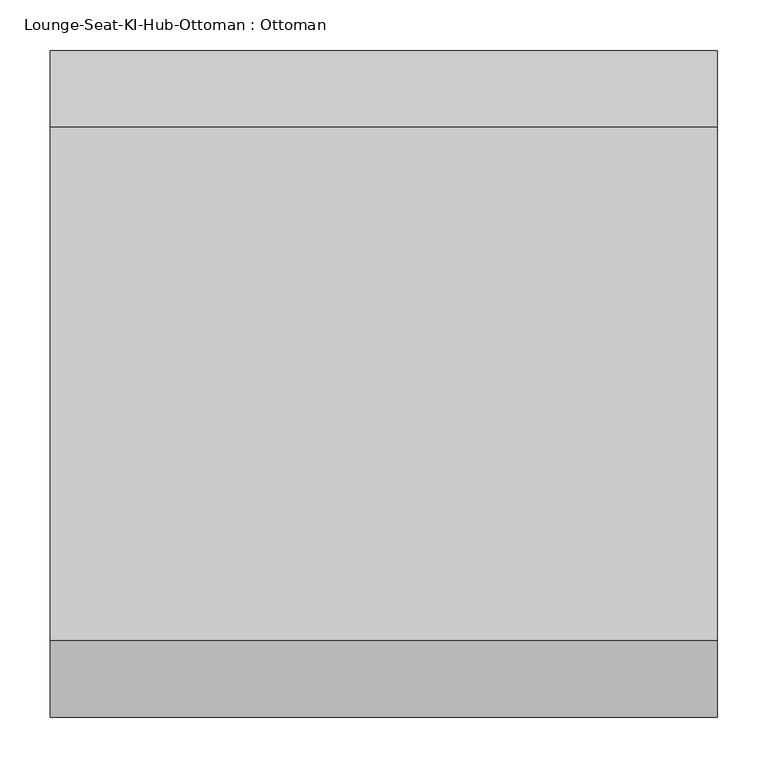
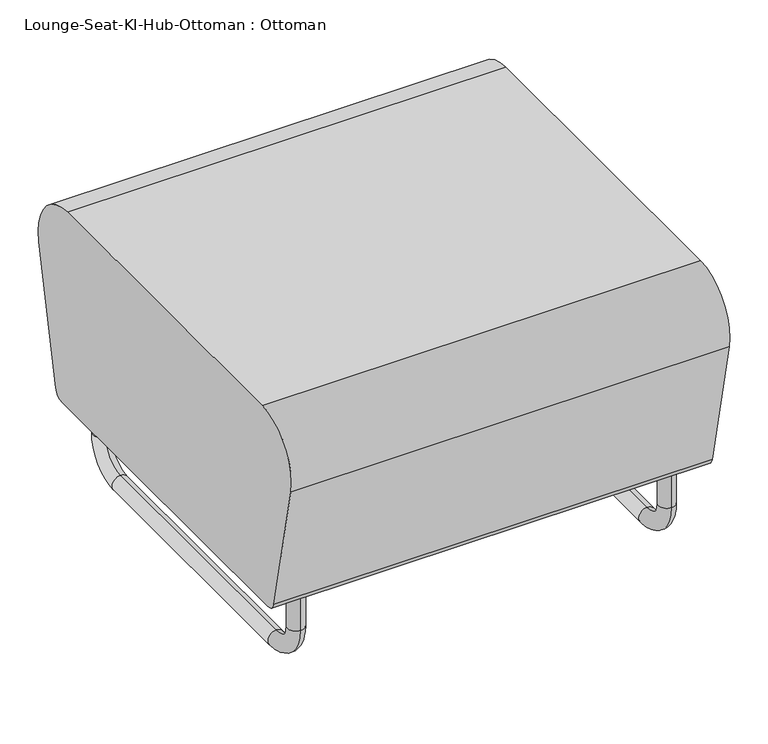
"""IFC4 building model written with IfcOpenShell, lengths in millimetres: furniture geometry, Lounge-Seat-KI-Hub-Ottoman : Ottoman."""

from ifc_helpers import new_model, si_unit, point, frame, origin, place, context, project, spatial, circle_curve, ellipse_curve, trimmed, source, transform, mapped, element, save
from ifc_brep_helpers import plane_surface, cylinder_surface, revolved_surface, advanced_brep


def lounge_seat_ki_hub_ottoman_ottoman_fce9da11(model_context):
    return source(origin(), model_context, "Body", "AdvancedBrep", [
        advanced_brep(
        [(279.4, -266.7, 120.65), (279.4, -241.3, 120.65), (279.4, -266.7, 63.5), (279.4, -241.3, 63.5), (279.4, -203.2, 25.4), (279.4, -203.2, 0.0), (279.4, 203.2, 0.0), (279.4, 203.2, 25.4), (279.4, 241.3, 63.5), (279.4, 266.7, 63.5), (279.4, 266.7, 120.65), (279.4, 241.3, 120.65)],
        [
            (0, 1, circle_curve(frame((279.4, -254.0, 120.65), z_axis=(0.0, 0.0, 1.0), x_axis=(0.0, 1.0, 0.0)), 12.7)),
            (1, 0, circle_curve(frame((279.4, -254.0, 120.65), z_axis=(0.0, 0.0, 1.0), x_axis=(0.0, 1.0, 0.0)), 12.7)),
            (0, 2),
            (2, 3, circle_curve(frame((279.4, -254.0, 63.5), z_axis=(0.0, 0.0, 1.0), x_axis=(0.0, 1.0, 0.0)), 12.7)),
            (3, 1),
            (3, 2, circle_curve(frame((279.4, -254.0, 63.5), z_axis=(0.0, 0.0, 1.0), x_axis=(0.0, 1.0, 0.0)), 12.7)),
            (4, 3, circle_curve(frame((279.4, -203.2, 63.5), z_axis=(-1.0, 0.0, 0.0), x_axis=(0.0, -1.0, 0.0)), 38.1)),
            (2, 5, circle_curve(frame((279.4, -203.2, 63.5), z_axis=(1.0, 0.0, 0.0), x_axis=(0.0, -1.0, 0.0)), 63.5)),
            (5, 4, circle_curve(frame((279.4, -203.2, 12.7), z_axis=(0.0, -1.0, 0.0), x_axis=(0.0, 0.0, 1.0)), 12.7)),
            (4, 5, circle_curve(frame((279.4, -203.2, 12.7), z_axis=(0.0, -1.0, 0.0), x_axis=(0.0, 0.0, 1.0)), 12.7)),
            (5, 6),
            (6, 7, circle_curve(frame((279.4, 203.2, 12.7), z_axis=(0.0, -1.0, 0.0), x_axis=(0.0, 0.0, 1.0)), 12.7)),
            (7, 4),
            (7, 6, circle_curve(frame((279.4, 203.2, 12.7), z_axis=(0.0, -1.0, 0.0), x_axis=(0.0, 0.0, 1.0)), 12.7)),
            (8, 7, circle_curve(frame((279.4, 203.2, 63.5), z_axis=(-1.0, 0.0, 0.0), x_axis=(0.0, 0.0, -1.0)), 38.1)),
            (6, 9, circle_curve(frame((279.4, 203.2, 63.5), z_axis=(1.0, 0.0, 0.0), x_axis=(0.0, 0.0, -1.0)), 63.5)),
            (9, 8, circle_curve(frame((279.4, 254.0, 63.5), z_axis=(0.0, 0.0, -1.0), x_axis=(0.0, -1.0, 0.0)), 12.7)),
            (8, 9, circle_curve(frame((279.4, 254.0, 63.5), z_axis=(0.0, 0.0, -1.0), x_axis=(0.0, -1.0, 0.0)), 12.7)),
            (10, 11, circle_curve(frame((279.4, 254.0, 120.65), z_axis=(0.0, 0.0, 1.0), x_axis=(0.0, -1.0, 0.0)), 12.7)),
            (11, 10, circle_curve(frame((279.4, 254.0, 120.65), z_axis=(0.0, 0.0, 1.0), x_axis=(0.0, -1.0, 0.0)), 12.7)),
            (9, 10),
            (11, 8),
        ],
        [
            plane_surface(frame((279.4, -254.0, 120.65), z_axis=(0.0, 0.0, 1.0), x_axis=(1.0, 0.0, 0.0))),
            cylinder_surface(frame((279.4, -254.0, 120.65), z_axis=(0.0, 0.0, 1.0), x_axis=(0.0, 1.0, 0.0)), 12.7),
            revolved_surface(trimmed(ellipse_curve(frame((279.4, -254.0, 63.5), z_axis=(0.0, 0.0, 1.0), x_axis=(0.0, 1.0, 0.0)), 12.7, 12.7), [point((279.4, -266.7, 63.5))], [point((279.4, -241.3, 63.5))], True, "CARTESIAN"), (279.4, -203.2, 63.5), (1.0, 0.0, 0.0)),
            revolved_surface(trimmed(ellipse_curve(frame((279.4, -254.0, 63.5), z_axis=(0.0, 0.0, 1.0), x_axis=(0.0, 1.0, 0.0)), 12.7, 12.7), [point((279.4, -241.3, 63.5))], [point((279.4, -266.7, 63.5))], True, "CARTESIAN"), (279.4, -203.2, 63.5), (1.0, 0.0, 0.0)),
            cylinder_surface(frame((279.4, -203.2, 12.7), z_axis=(0.0, -1.0, 0.0), x_axis=(0.0, 0.0, 1.0)), 12.7),
            revolved_surface(trimmed(ellipse_curve(frame((279.4, 203.2, 12.7), z_axis=(0.0, -1.0, 0.0), x_axis=(0.0, 0.0, 1.0)), 12.7, 12.7), [point((279.4, 203.2, 0.0))], [point((279.4, 203.2, 25.4))], True, "CARTESIAN"), (279.4, 203.2, 63.5), (1.0, 0.0, 0.0)),
            revolved_surface(trimmed(ellipse_curve(frame((279.4, 203.2, 12.7), z_axis=(0.0, -1.0, 0.0), x_axis=(0.0, 0.0, 1.0)), 12.7, 12.7), [point((279.4, 203.2, 25.4))], [point((279.4, 203.2, 0.0))], True, "CARTESIAN"), (279.4, 203.2, 63.5), (1.0, 0.0, 0.0)),
            plane_surface(frame((279.4, 254.0, 120.65), z_axis=(0.0, 0.0, 1.0), x_axis=(1.0, 0.0, 0.0))),
            cylinder_surface(frame((279.4, 254.0, 63.5), z_axis=(0.0, 0.0, -1.0), x_axis=(0.0, -1.0, 0.0)), 12.7),
        ],
        [
            (0, [[1, 2]]),
            (1, [[-1, 3, 4, 5]]),
            (1, [[-2, -5, 6, -3]]),
            (2, [[7, -4, 8, 9]]),
            (3, [[-8, -6, -7, 10]]),
            (4, [[-9, 11, 12, 13]]),
            (4, [[-10, -13, 14, -11]]),
            (5, [[15, -12, 16, 17]]),
            (6, [[-16, -14, -15, 18]]),
            (7, [[19, 20]]),
            (8, [[-17, 21, -20, 22]]),
            (8, [[-18, -22, -19, -21]]),
        ],
    ),
        advanced_brep(
        [(-279.4, -266.7, 120.65), (-279.4, -241.3, 120.65), (-279.4, -266.7, 63.5), (-279.4, -241.3, 63.5), (-279.4, -203.2, 25.4), (-279.4, -203.2, 0.0), (-279.4, 203.2, 0.0), (-279.4, 203.2, 25.4), (-279.4, 241.3, 63.5), (-279.4, 266.7, 63.5), (-279.4, 266.7, 120.65), (-279.4, 241.3, 120.65)],
        [
            (0, 1, circle_curve(frame((-279.4, -254.0, 120.65), z_axis=(0.0, 0.0, 1.0), x_axis=(0.0, 1.0, 0.0)), 12.7)),
            (1, 0, circle_curve(frame((-279.4, -254.0, 120.65), z_axis=(0.0, 0.0, 1.0), x_axis=(0.0, 1.0, 0.0)), 12.7)),
            (0, 2),
            (2, 3, circle_curve(frame((-279.4, -254.0, 63.5), z_axis=(0.0, 0.0, 1.0), x_axis=(0.0, 1.0, 0.0)), 12.7)),
            (3, 1),
            (3, 2, circle_curve(frame((-279.4, -254.0, 63.5), z_axis=(0.0, 0.0, 1.0), x_axis=(0.0, 1.0, 0.0)), 12.7)),
            (4, 3, circle_curve(frame((-279.4, -203.2, 63.5), z_axis=(-1.0, 0.0, 0.0), x_axis=(0.0, -1.0, 0.0)), 38.1)),
            (2, 5, circle_curve(frame((-279.4, -203.2, 63.5), z_axis=(1.0, 0.0, 0.0), x_axis=(0.0, -1.0, 0.0)), 63.5)),
            (5, 4, circle_curve(frame((-279.4, -203.2, 12.7), z_axis=(0.0, -1.0, 0.0), x_axis=(0.0, 0.0, 1.0)), 12.7)),
            (4, 5, circle_curve(frame((-279.4, -203.2, 12.7), z_axis=(0.0, -1.0, 0.0), x_axis=(0.0, 0.0, 1.0)), 12.7)),
            (5, 6),
            (6, 7, circle_curve(frame((-279.4, 203.2, 12.7), z_axis=(0.0, -1.0, 0.0), x_axis=(0.0, 0.0, 1.0)), 12.7)),
            (7, 4),
            (7, 6, circle_curve(frame((-279.4, 203.2, 12.7), z_axis=(0.0, -1.0, 0.0), x_axis=(0.0, 0.0, 1.0)), 12.7)),
            (8, 7, circle_curve(frame((-279.4, 203.2, 63.5), z_axis=(-1.0, 0.0, 0.0), x_axis=(0.0, 0.0, -1.0)), 38.1)),
            (6, 9, circle_curve(frame((-279.4, 203.2, 63.5), z_axis=(1.0, 0.0, 0.0), x_axis=(0.0, 0.0, -1.0)), 63.5)),
            (9, 8, circle_curve(frame((-279.4, 254.0, 63.5), z_axis=(0.0, 0.0, -1.0), x_axis=(0.0, -1.0, 0.0)), 12.7)),
            (8, 9, circle_curve(frame((-279.4, 254.0, 63.5), z_axis=(0.0, 0.0, -1.0), x_axis=(0.0, -1.0, 0.0)), 12.7)),
            (10, 11, circle_curve(frame((-279.4, 254.0, 120.65), z_axis=(0.0, 0.0, 1.0), x_axis=(0.0, -1.0, 0.0)), 12.7)),
            (11, 10, circle_curve(frame((-279.4, 254.0, 120.65), z_axis=(0.0, 0.0, 1.0), x_axis=(0.0, -1.0, 0.0)), 12.7)),
            (9, 10),
            (11, 8),
        ],
        [
            plane_surface(frame((-279.4, -254.0, 120.65), z_axis=(0.0, 0.0, 1.0), x_axis=(1.0, 0.0, 0.0))),
            cylinder_surface(frame((-279.4, -254.0, 120.65), z_axis=(0.0, 0.0, 1.0), x_axis=(0.0, 1.0, 0.0)), 12.7),
            revolved_surface(trimmed(ellipse_curve(frame((-279.4, -254.0, 63.5), z_axis=(0.0, 0.0, 1.0), x_axis=(0.0, 1.0, 0.0)), 12.7, 12.7), [point((-279.4, -266.7, 63.5))], [point((-279.4, -241.3, 63.5))], True, "CARTESIAN"), (-279.4, -203.2, 63.5), (1.0, 0.0, 0.0)),
            revolved_surface(trimmed(ellipse_curve(frame((-279.4, -254.0, 63.5), z_axis=(0.0, 0.0, 1.0), x_axis=(0.0, 1.0, 0.0)), 12.7, 12.7), [point((-279.4, -241.3, 63.5))], [point((-279.4, -266.7, 63.5))], True, "CARTESIAN"), (-279.4, -203.2, 63.5), (1.0, 0.0, 0.0)),
            cylinder_surface(frame((-279.4, -203.2, 12.7), z_axis=(0.0, -1.0, 0.0), x_axis=(0.0, 0.0, 1.0)), 12.7),
            revolved_surface(trimmed(ellipse_curve(frame((-279.4, 203.2, 12.7), z_axis=(0.0, -1.0, 0.0), x_axis=(0.0, 0.0, 1.0)), 12.7, 12.7), [point((-279.4, 203.2, 0.0))], [point((-279.4, 203.2, 25.4))], True, "CARTESIAN"), (-279.4, 203.2, 63.5), (1.0, 0.0, 0.0)),
            revolved_surface(trimmed(ellipse_curve(frame((-279.4, 203.2, 12.7), z_axis=(0.0, -1.0, 0.0), x_axis=(0.0, 0.0, 1.0)), 12.7, 12.7), [point((-279.4, 203.2, 25.4))], [point((-279.4, 203.2, 0.0))], True, "CARTESIAN"), (-279.4, 203.2, 63.5), (1.0, 0.0, 0.0)),
            plane_surface(frame((-279.4, 254.0, 120.65), z_axis=(0.0, 0.0, 1.0), x_axis=(1.0, 0.0, 0.0))),
            cylinder_surface(frame((-279.4, 254.0, 63.5), z_axis=(0.0, 0.0, -1.0), x_axis=(0.0, -1.0, 0.0)), 12.7),
        ],
        [
            (0, [[1, 2]]),
            (1, [[-1, 3, 4, 5]]),
            (1, [[-2, -5, 6, -3]]),
            (2, [[7, -4, 8, 9]]),
            (3, [[-8, -6, -7, 10]]),
            (4, [[-9, 11, 12, 13]]),
            (4, [[-10, -13, 14, -11]]),
            (5, [[15, -12, 16, 17]]),
            (6, [[-16, -14, -15, 18]]),
            (7, [[19, 20]]),
            (8, [[-17, 21, -20, 22]]),
            (8, [[-18, -22, -19, -21]]),
        ],
    ),
        advanced_brep(
        [(-330.2, -254.0, 431.8), (330.2, -254.0, 431.8), (330.2, 254.0, 431.8), (-330.2, 254.0, 431.8), (330.2, -269.1068676, 120.65), (-330.2, -269.1068676, 120.65), (-330.2, 269.1068676, 120.65), (330.2, 269.1068676, 120.65), (-330.2, -328.5348472, 339.7571292), (330.2, -328.5348472, 339.7571292), (330.2, -330.2, 355.6), (-330.2, -330.2, 355.6), (330.2, -284.6349608, 133.2244019), (-330.2, -284.6349608, 133.2244019), (330.2, 284.6349608, 133.2244019), (330.2, 328.5348472, 339.7571292), (330.2, 330.2, 355.6), (-330.2, 330.2, 355.6), (-330.2, 328.5348472, 339.7571292), (-330.2, 284.6349608, 133.2244019)],
        [
            (0, 1),
            (1, 2),
            (2, 3),
            (3, 0),
            (4, 5),
            (5, 6),
            (6, 7),
            (7, 4),
            (8, 9),
            (9, 10, circle_curve(frame((330.2, -254.0, 355.6), z_axis=(-1.0, 0.0, 0.0), x_axis=(0.0, 1.0, 0.0)), 76.2)),
            (10, 1, circle_curve(frame((330.2, -254.0, 355.6), z_axis=(-1.0, 0.0, 0.0), x_axis=(0.0, 1.0, 0.0)), 76.2)),
            (0, 11, circle_curve(frame((-330.2, -254.0, 355.6), z_axis=(1.0, 0.0, 0.0), x_axis=(0.0, 1.0, 0.0)), 76.2)),
            (11, 8, circle_curve(frame((-330.2, -254.0, 355.6), z_axis=(1.0, 0.0, 0.0), x_axis=(0.0, 1.0, 0.0)), 76.2)),
            (12, 13),
            (13, 5, circle_curve(frame((-330.2, -269.1068676, 136.525), z_axis=(1.0, 0.0, 0.0), x_axis=(0.0, 1.0, 0.0)), 15.875)),
            (4, 12, circle_curve(frame((330.2, -269.1068676, 136.525), z_axis=(-1.0, 0.0, 0.0), x_axis=(0.0, 1.0, 0.0)), 15.875)),
            (8, 13),
            (12, 9),
            (7, 14, circle_curve(frame((330.2, 269.1068676, 136.525), z_axis=(1.0, 0.0, 0.0), x_axis=(0.0, 1.0, 0.0)), 15.875)),
            (14, 15),
            (15, 16, circle_curve(frame((330.2, 254.0, 355.6), z_axis=(1.0, 0.0, 0.0), x_axis=(0.0, 1.0, 0.0)), 76.2)),
            (16, 2, circle_curve(frame((330.2, 254.0, 355.6), z_axis=(1.0, 0.0, 0.0), x_axis=(0.0, 1.0, 0.0)), 76.2)),
            (3, 17, circle_curve(frame((-330.2, 254.0, 355.6), z_axis=(-1.0, 0.0, 0.0), x_axis=(0.0, 1.0, 0.0)), 76.2)),
            (17, 18, circle_curve(frame((-330.2, 254.0, 355.6), z_axis=(-1.0, 0.0, 0.0), x_axis=(0.0, 1.0, 0.0)), 76.2)),
            (18, 19),
            (19, 6, circle_curve(frame((-330.2, 269.1068676, 136.525), z_axis=(-1.0, 0.0, 0.0), x_axis=(0.0, 1.0, 0.0)), 15.875)),
            (18, 15),
            (14, 19),
        ],
        [
            plane_surface(frame((330.2, 314.325, 431.8), z_axis=(0.0, 0.0, 1.0), x_axis=(-1.0, 0.0, 0.0))),
            plane_surface(frame((330.2, -314.325, 120.65), z_axis=(0.0, 0.0, -1.0), x_axis=(-1.0, 0.0, 0.0))),
            cylinder_surface(frame((-355.6, -254.0, 355.6), z_axis=(-1.0, 0.0, 0.0), x_axis=(0.0, 1.0, 0.0)), 76.2),
            cylinder_surface(frame((-355.6, -269.1068676, 136.525), z_axis=(-1.0, 0.0, 0.0), x_axis=(0.0, 1.0, 0.0)), 15.875),
            plane_surface(frame((355.6, -284.6349608, 133.2244019), z_axis=(0.0, -0.9781476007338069, -0.20791169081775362), x_axis=(-1.0, 0.0, 0.0))),
            plane_surface(frame((330.2, -314.325, 431.8), z_axis=(1.0, 0.0, 0.0), x_axis=(0.0, -1.0, 0.0))),
            plane_surface(frame((-330.2, -314.325, 431.8), z_axis=(-1.0, 0.0, 0.0), x_axis=(0.0, 1.0, 0.0))),
            plane_surface(frame((355.6, 328.5348472, 339.7571292), z_axis=(0.0, 0.9781476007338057, -0.20791169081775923), x_axis=(-1.0, 0.0, 0.0))),
            cylinder_surface(frame((-355.6, 269.1068676, 136.525), z_axis=(-1.0, 0.0, 0.0), x_axis=(0.0, 1.0, 0.0)), 15.875),
            cylinder_surface(frame((-355.6, 254.0, 355.6), z_axis=(-1.0, 0.0, 0.0), x_axis=(0.0, 1.0, 0.0)), 76.2),
        ],
        [
            (0, [[1, 2, 3, 4]]),
            (1, [[5, 6, 7, 8]]),
            (2, [[9, 10, 11, -1, 12, 13]]),
            (3, [[14, 15, -5, 16]]),
            (4, [[-9, 17, -14, 18]]),
            (5, [[-11, -10, -18, -16, -8, 19, 20, 21, 22, -2]]),
            (6, [[-12, -4, 23, 24, 25, 26, -6, -15, -17, -13]]),
            (7, [[27, -20, 28, -25]]),
            (8, [[-28, -19, -7, -26]]),
            (9, [[-27, -24, -23, -3, -22, -21]]),
        ],
    ),
    ])


if __name__ == "__main__":
    model = new_model("IFC4")
    model_context = context("Model", 3, world=origin())
    ifc_project = project(units=[si_unit("LENGTHUNIT", "METRE", prefix="MILLI")], contexts=[model_context])
    site = spatial("IfcSite", under=ifc_project)
    building = spatial("IfcBuilding", under=site)
    placement = place(None, origin())
    lounge_seat_ki_hub_ottoman_ottoman_shape = lounge_seat_ki_hub_ottoman_ottoman_fce9da11(model_context)
    element("IfcFurniture", 1, ObjectType="Lounge-Seat-KI-Hub-Ottoman : Ottoman", at=placement, inside=building, context=model_context, shape_type="MappedRepresentation", body=[
        mapped(lounge_seat_ki_hub_ottoman_ottoman_shape, transform((0.0, 0.0, 0.0), x_axis=(1.0, 0.0, 0.0), y_axis=(0.0, 1.0, 0.0), z_axis=(0.0, 0.0, 1.0))),
    ])
    save(model, "model.ifc")
